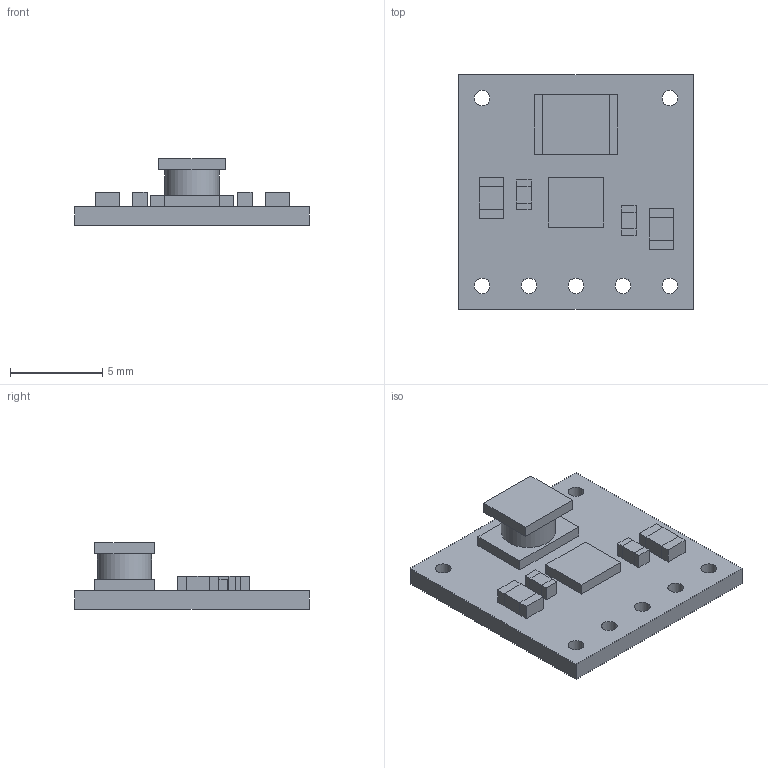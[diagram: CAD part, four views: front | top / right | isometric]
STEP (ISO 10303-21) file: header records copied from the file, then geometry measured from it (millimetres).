
FILE_DESCRIPTION(('Open CASCADE Model'),'2;1');
FILE_NAME('Open CASCADE Shape Model','2024-07-08T13:45:51',('Author'),( 'Open CASCADE'),'Open CASCADE STEP processor 7.5','Open CASCADE 7.5' ,'Unknown');
FILE_SCHEMA(('AUTOMOTIVE_DESIGN { 1 0 10303 214 1 1 1 1 }'));
Length unit declared in the file: millimetre
Products named in the file (22): PCB; Board; Open CASCADE STEP translator 7.5 1.1.1; L1; LQH43CN v2_RGB8421504; IC1; 6682346048; Extruded; C4; 6682346768; 6682346928; 6682347088; C2; 6682346448; 6682346288; C1; C3
Assembly tree (28 placements, depth 4):
  PCB
    Board
      Open CASCADE STEP translator 7.5 1.1.1
    L1
      LQH43CN v2_RGB8421504
    IC1
      6682346048
        Extruded
    C4
      6682346768
        Extruded
      6682346928
        Extruded
      6682347088
        Extruded
    C2
      6682346448  x2
        Extruded
      6682346288
        Extruded
    C1
      6682347088
        Extruded
      6682346928
        Extruded
      6682346768
        Extruded
    C3
      6682346448  x2
        Extruded
      6682346288
        Extruded
Bounding box: 12.7 x 12.7 x 3.6 mm (x, y, z)
Volume: 193.7 mm3; surface area: 538.1 mm2
Topology: 16 solids, 16 shells, 105 faces, 216 edges, 144 vertices
Faces by surface type: plane 97, cylinder 8
Full cylindrical faces by diameter (mm): 0.85 x7, 2.927 x1
Entity records: 2207 total; most frequent: DIRECTION 332, CARTESIAN_POINT 312, ORIENTED_EDGE 264, EDGE_CURVE 132, LINE 116, VECTOR 116, AXIS2_PLACEMENT_3D 108, VERTEX_POINT 88
